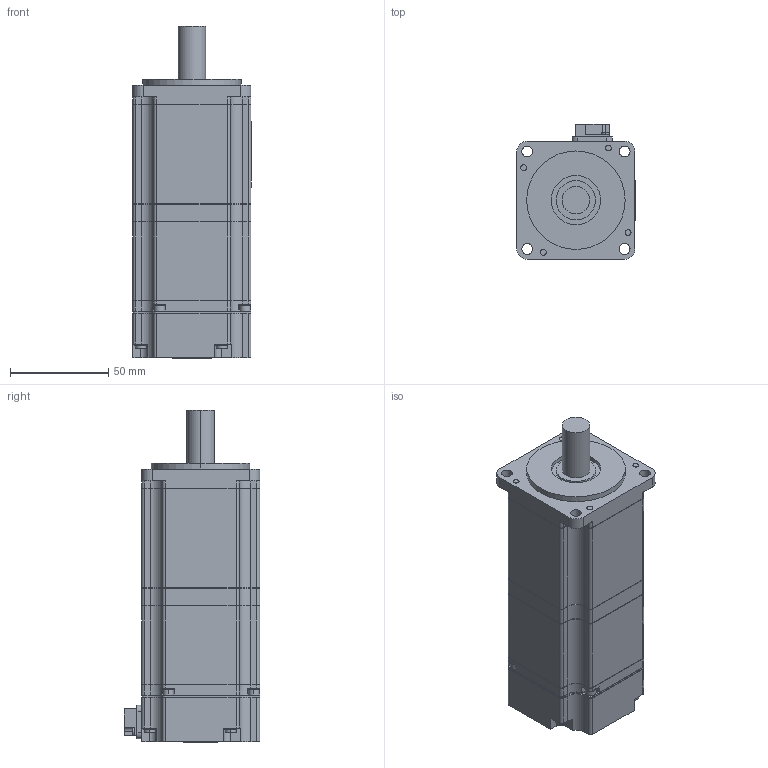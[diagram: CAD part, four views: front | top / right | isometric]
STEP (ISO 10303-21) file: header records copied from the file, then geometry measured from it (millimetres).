
FILE_DESCRIPTION (( 'STEP AP203' ), '1' );
FILE_NAME ('sgmjv_04a_a2c.STEP', '2008-12-26T02:51:19', ( 'T' ), ( 'T' ), 'SwSTEP 2.0', 'SolidWorks 2006052', '' );
FILE_SCHEMA (( 'CONFIG_CONTROL_DESIGN' ));
Length unit declared in the file: millimetre
Products named in the file (1): sgmjv_04a_a2c
Bounding box: 60.1 x 68.8 x 168.6 mm (x, y, z)
Volume: 451941.3 mm3; surface area: 44519.4 mm2
Topology: 1 solids, 1 shells, 534 faces, 1454 edges, 960 vertices
Faces by surface type: plane 292, cylinder 242
Entity records: 17081 total; most frequent: DIRECTION 3034, CARTESIAN_POINT 2959, ORIENTED_EDGE 2908, EDGE_CURVE 1454, AXIS2_PLACEMENT_3D 1047, VERTEX_POINT 960, VECTOR 940, LINE 940
